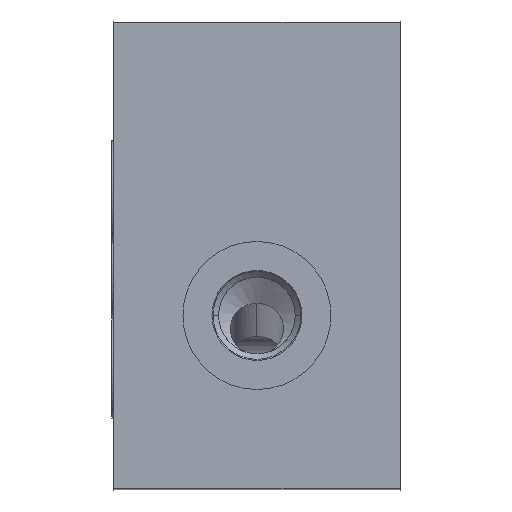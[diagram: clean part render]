
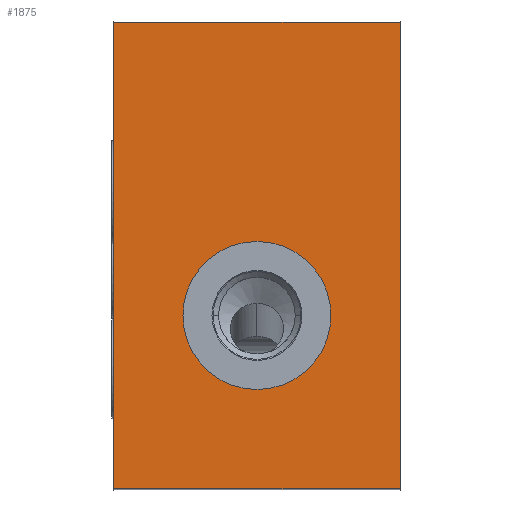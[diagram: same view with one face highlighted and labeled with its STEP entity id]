
A CAD part, top view. The second image highlights one B-rep face of the part: STEP entity #1875.
In plain terms, the highlighted planar face has unit normal (0, 0, 1).
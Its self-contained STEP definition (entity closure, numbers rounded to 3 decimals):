
#73=DIRECTION('',(0.,-1.,0.));
#74=VECTOR('',#73,70.);
#75=CARTESIAN_POINT('',(0.,70.,48.));
#76=LINE('',#75,#74);
#224=DIRECTION('',(1.,0.,0.));
#225=VECTOR('',#224,43.);
#226=CARTESIAN_POINT('',(0.,0.,48.));
#227=LINE('',#226,#225);
#231=DIRECTION('',(1.,0.,0.));
#232=VECTOR('',#231,43.);
#233=CARTESIAN_POINT('',(0.,70.,48.));
#234=LINE('',#233,#232);
#238=CARTESIAN_POINT('',(21.5,26.,48.));
#239=DIRECTION('',(0.,0.,-1.));
#240=DIRECTION('',(-1.,0.,0.));
#241=AXIS2_PLACEMENT_3D('',#238,#239,#240);
#246=CARTESIAN_POINT('',(21.5,26.,48.));
#247=DIRECTION('',(0.,0.,-1.));
#248=DIRECTION('',(1.,0.,0.));
#249=AXIS2_PLACEMENT_3D('',#246,#247,#248);
#291=DIRECTION('',(0.,-1.,0.));
#292=VECTOR('',#291,70.);
#293=CARTESIAN_POINT('',(43.,70.,48.));
#294=LINE('',#293,#292);
#1565=CARTESIAN_POINT('',(0.,0.,48.));
#1567=VERTEX_POINT('',#1565);
#1571=CARTESIAN_POINT('',(0.,70.,48.));
#1572=VERTEX_POINT('',#1571);
#1573=CARTESIAN_POINT('',(43.,0.,48.));
#1575=VERTEX_POINT('',#1573);
#1579=CARTESIAN_POINT('',(43.,70.,48.));
#1580=VERTEX_POINT('',#1579);
#1717=CARTESIAN_POINT('',(10.4,26.,48.));
#1718=VERTEX_POINT('',#1717);
#1719=CARTESIAN_POINT('',(32.6,26.,48.));
#1720=VERTEX_POINT('',#1719);
#1856=CARTESIAN_POINT('',(0.,70.,48.));
#1857=DIRECTION('',(0.,0.,1.));
#1858=DIRECTION('',(0.,-1.,0.));
#1859=AXIS2_PLACEMENT_3D('',#1856,#1857,#1858);
#1860=PLANE('',#1859);
#1861=ORIENTED_EDGE('',*,*,#1770,.F.);
#1863=ORIENTED_EDGE('',*,*,#1862,.T.);
#1865=ORIENTED_EDGE('',*,*,#1864,.T.);
#1866=ORIENTED_EDGE('',*,*,#1835,.F.);
#1867=EDGE_LOOP('',(#1861,#1863,#1865,#1866));
#1868=FACE_OUTER_BOUND('',#1867,.F.);
#1870=ORIENTED_EDGE('',*,*,#1869,.F.);
#1872=ORIENTED_EDGE('',*,*,#1871,.F.);
#1873=EDGE_LOOP('',(#1870,#1872));
#1874=FACE_BOUND('',#1873,.F.);
#242=CIRCLE('',#241,11.1);
#250=CIRCLE('',#249,11.1);
#1770=EDGE_CURVE('',#1572,#1567,#76,.T.);
#1835=EDGE_CURVE('',#1567,#1575,#227,.T.);
#1862=EDGE_CURVE('',#1572,#1580,#234,.T.);
#1864=EDGE_CURVE('',#1580,#1575,#294,.T.);
#1869=EDGE_CURVE('',#1718,#1720,#242,.T.);
#1871=EDGE_CURVE('',#1720,#1718,#250,.T.);
#1875=ADVANCED_FACE('',(#1868,#1874),#1860,.T.);
